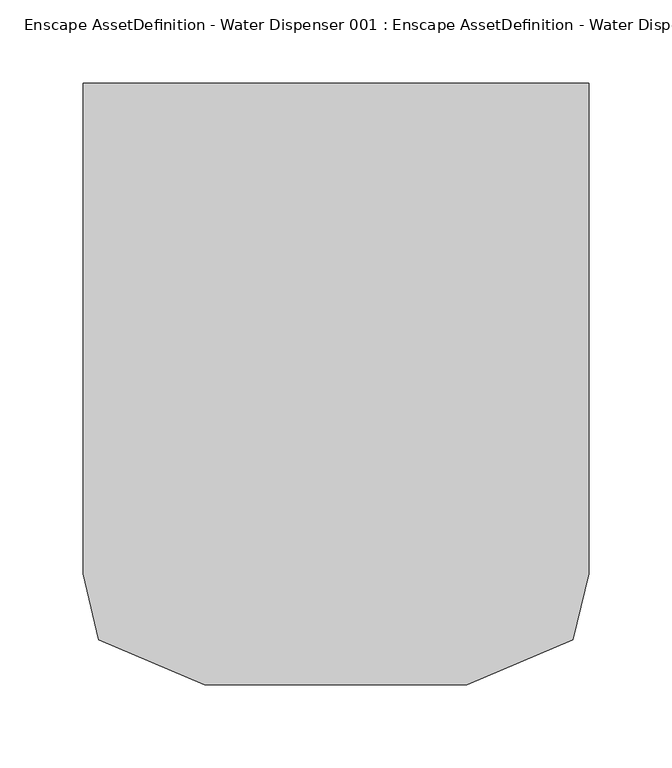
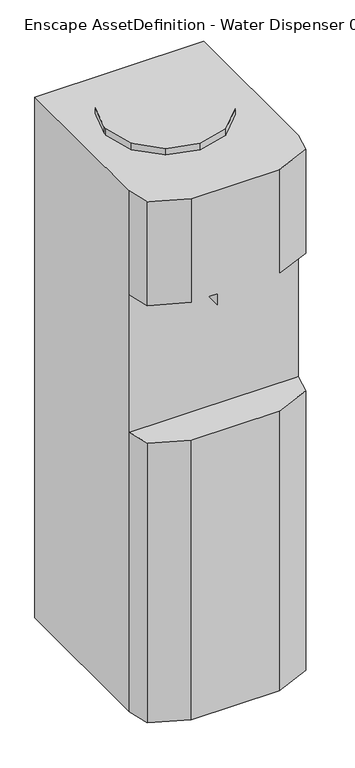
"""IFC4 building model written with IfcOpenShell, lengths in millimetres: geographic element geometry, Enscape AssetDefinition - Water Dispenser 001 : Enscape AssetDefinition - Water Dispenser 001."""

from ifc_helpers import new_model, si_unit, origin, place, context, project, spatial, triangles, source, transform, mapped, element, save


def enscape_assetdefinition_water_dispenser_001_enscape_70096ad3(model_context):
    return source(origin(), model_context, "Body", "Tessellation", [
        triangles([(-151.8529949, -113.9950041, 0.0), (-151.8529949, 180.460006, 0.0), (-151.8529949, 180.460006, 531.2020237), (151.8529949, 180.460006, 0.0), (142.4500078, -153.4639976, 0.0), (151.8529949, -113.9950041, 0.0), (151.8529949, -113.9950041, 531.2020237), (151.8529949, 180.460006, 531.2020237), (-151.8529949, -113.9950041, 531.2020237), (-151.8529949, 180.460006, 793.0840038), (-151.8529949, 180.460006, 990.2870104), (151.8529949, -113.9950041, 793.0840038), (151.8529949, 180.460006, 793.0840038), (151.8529949, 180.460006, 990.2870104), (142.4500078, -153.4639976, 793.0840038), (-151.8529949, -113.9950041, 793.0840038), (-78.7859977, -180.460006, 793.0840038), (142.4500078, -153.4639976, 990.2870104), (151.8529949, -113.9950041, 990.2870104), (78.7859977, -180.460006, 990.2870104), (78.7859977, -180.460006, 793.0840038), (-78.7859977, -180.460006, 990.2870104), (-142.4500078, -153.4639976, 793.0840038), (-151.8529949, -113.9950041, 990.2870104), (-142.4500078, -153.4639976, 990.2870104), (78.7859977, -180.460006, 0.0), (78.7859977, -180.460006, 531.2020237), (142.4500078, -153.4639976, 531.2020237), (-142.4500078, -153.4639976, 0.0), (-78.7859977, -180.460006, 0.0), (-142.4500078, -153.4639976, 531.2020237), (-78.7859977, -180.460006, 531.2020237), (23.1179998, -105.7919982, 793.0840038), (23.1179998, -164.0309943, 793.0840038), (-23.1179998, -164.0309943, 793.0840038), (23.1179998, -105.7919982, 759.1400002), (-23.1179998, -105.7919982, 793.0840038), (-23.1179998, -164.0309943, 759.1400002), (-23.1179998, -105.7919982, 759.1400002), (23.1179998, -164.0309943, 759.1400002), (93.4390004, -18.0849994, 1002.125968), (107.8689972, 35.4779989, 1002.125968), (107.8689972, 40.1060004, 1002.125968), (93.4390004, 93.6690009, 1002.125968), (53.9470024, 133.1609945, 990.2870104), (93.4390004, 93.6690009, 990.2870104), (53.9470024, 133.1609945, 1002.125968), (0.0, 147.6159988, 990.2870104), (-53.9470024, 133.1609945, 990.2870104), (0.0, 147.6159988, 1002.125968), (-53.9470024, 133.1609945, 1002.125968), (-93.4390004, 93.6690009, 990.2870104), (-93.4390004, 93.6690009, 1002.125968), (-107.8689972, 35.4779989, 990.2870104), (-107.8689972, 40.1060004, 990.2870104), (-107.8689972, 40.1060004, 1002.125968), (-107.8689972, 35.4779989, 1002.125968), (-93.4390004, -18.0849994, 990.2870104), (-53.9470024, -57.5769997, 990.2870104), (-93.4390004, -18.0849994, 1002.125968), (107.8689972, 40.1060004, 990.2870104), (0.0, -72.031995, 990.2870104), (-53.9470024, -57.5769997, 1002.125968), (0.0, -72.031995, 1002.125968), (53.9470024, -57.5769997, 990.2870104), (53.9470024, -57.5769997, 1002.125968), (93.4390004, -18.0849994, 990.2870104), (107.8689972, 35.4779989, 990.2870104)], [[61, 68, 67], [68, 41, 67], [67, 41, 66], [67, 66, 65], [61, 67, 65], [65, 66, 64], [64, 66, 41], [65, 64, 62], [61, 65, 62], [62, 64, 63], [41, 63, 64], [62, 63, 59], [61, 62, 59], [59, 63, 60], [41, 60, 63], [59, 60, 58], [61, 59, 58], [58, 60, 57], [41, 57, 60], [58, 57, 54], [61, 58, 54], [54, 57, 56], [41, 56, 57], [54, 56, 55], [61, 54, 55], [55, 56, 53], [41, 53, 56], [55, 53, 52], [61, 55, 52], [52, 53, 51], [41, 51, 53], [52, 51, 49], [61, 52, 49], [49, 51, 50], [41, 50, 51], [49, 50, 48], [61, 49, 48], [48, 50, 47], [41, 47, 50], [48, 47, 45], [61, 48, 45], [45, 46, 61], [45, 44, 46], [45, 47, 44], [41, 44, 47], [46, 43, 61], [46, 44, 43], [41, 43, 44], [68, 42, 41], [61, 42, 68], [61, 43, 42], [41, 42, 43], [40, 39, 36], [40, 38, 39], [35, 39, 38], [37, 36, 39], [35, 37, 39], [33, 40, 36], [37, 33, 36], [34, 38, 40], [34, 35, 38], [33, 34, 40], [34, 37, 35], [34, 33, 37], [9, 31, 32], [30, 27, 32], [29, 31, 9], [29, 32, 31], [29, 30, 32], [30, 26, 27], [29, 26, 30], [32, 27, 28], [26, 28, 27], [26, 5, 28], [29, 5, 26], [32, 7, 9], [32, 28, 7], [5, 7, 28], [25, 22, 20], [23, 22, 25], [23, 25, 24], [23, 17, 22], [17, 20, 22], [17, 21, 20], [21, 18, 20], [25, 20, 18], [24, 25, 18], [24, 18, 19], [21, 15, 18], [15, 19, 18], [15, 17, 23], [15, 21, 17], [15, 23, 16], [23, 24, 16], [15, 12, 19], [12, 9, 7], [12, 16, 9], [16, 12, 15], [12, 14, 19], [11, 19, 14], [11, 24, 19], [12, 13, 14], [13, 11, 14], [7, 13, 12], [13, 10, 11], [10, 24, 11], [10, 16, 24], [3, 16, 10], [3, 9, 16], [8, 10, 13], [8, 3, 10], [7, 8, 13], [29, 6, 5], [6, 8, 7], [5, 6, 7], [6, 4, 8], [4, 3, 8], [2, 9, 3], [4, 2, 3], [29, 9, 1], [29, 1, 6], [2, 1, 9], [1, 4, 6], [1, 2, 4]]),
    ])


if __name__ == "__main__":
    model = new_model("IFC4")
    model_context = context("Model", 3, world=origin())
    ifc_project = project(units=[si_unit("LENGTHUNIT", "METRE", prefix="MILLI")], contexts=[model_context])
    site = spatial("IfcSite", under=ifc_project)
    building = spatial("IfcBuilding", under=site)
    placement = place(None, origin())
    enscape_assetdefinition_water_dispenser_001_enscape_shape = enscape_assetdefinition_water_dispenser_001_enscape_70096ad3(model_context)
    element("IfcGeographicElement", 1, ObjectType="Enscape AssetDefinition - Water Dispenser 001 : Enscape AssetDefinition - Water Dispenser 001", at=placement, inside=building, context=model_context, shape_type="MappedRepresentation", body=[
        mapped(enscape_assetdefinition_water_dispenser_001_enscape_shape, transform((0.0, 0.0, 0.0), x_axis=(1.0, 0.0, 0.0), y_axis=(0.0, 1.0, 0.0), z_axis=(0.0, 0.0, 1.0))),
    ])
    save(model, "model.ifc")
